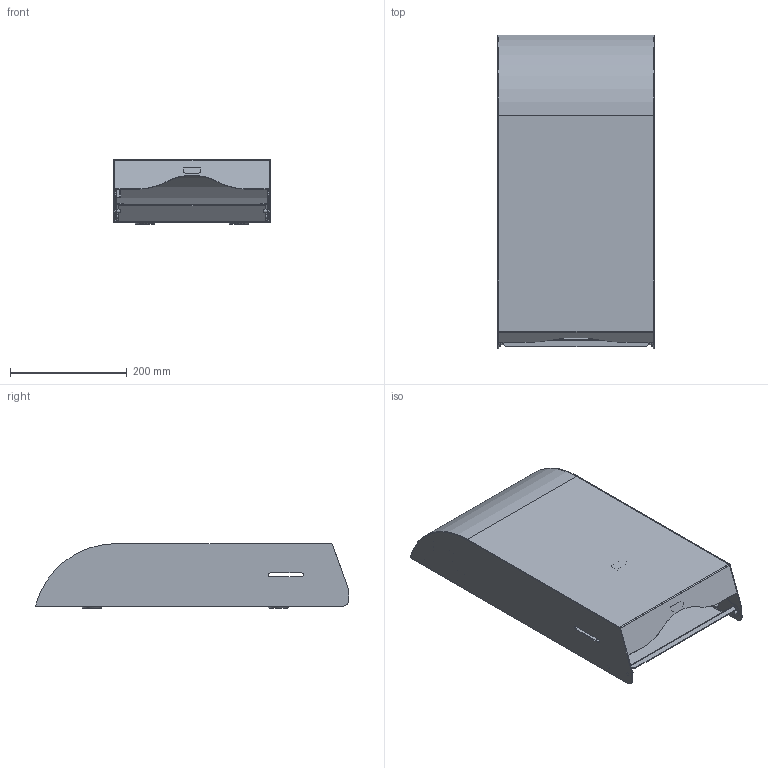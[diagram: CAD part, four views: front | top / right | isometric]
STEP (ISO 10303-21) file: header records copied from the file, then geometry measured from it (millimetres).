
FILE_DESCRIPTION((''),'2;1');
FILE_NAME('X:\Standardvarer\Papirdispenser\286 Dan Dryer Design håndtørrepapirdispenser\Tegninger\Public 3D files\286 DAN DRYER DESIGN paper towel dispenser.stp','2012-03-27T13:32:38',('Dan Dryer'),(''),'Autodesk Inventor 2011','Autodesk Inventor 2011','');
FILE_SCHEMA(('AUTOMOTIVE_DESIGN { 1 0 10303 214 1 1 1 1 }'));
Length unit declared in the file: millimetre
Products named in the file (10): 286 - slet; 286-20; 286-10; 286-11; 286-13; 286-12; 286-14; DD-291107-50; 286-15
Assembly tree (12 placements, depth 3):
  286 - slet
    286-20
      286-20
    286-10
      286-11
      286-13
      286-12
      286-14  x4
      DD-291107-50
      286-15
Bounding box: 267 x 536.2 x 110.67 mm (x, y, z)
Volume: 659612.2 mm3; surface area: 896558.9 mm2
Topology: 10 solids, 10 shells, 253 faces, 635 edges, 410 vertices
Faces by surface type: plane 139, cylinder 98, torus 8, cone 8
Full cylindrical faces by diameter (mm): 6 x4, 6.5 x2, 7 x2, 8.3 x1
Entity records: 7665 total; most frequent: DIRECTION 1346, CARTESIAN_POINT 1290, ORIENTED_EDGE 1208, EDGE_CURVE 604, AXIS2_PLACEMENT_3D 480, VERTEX_POINT 404, VECTOR 386, LINE 386
